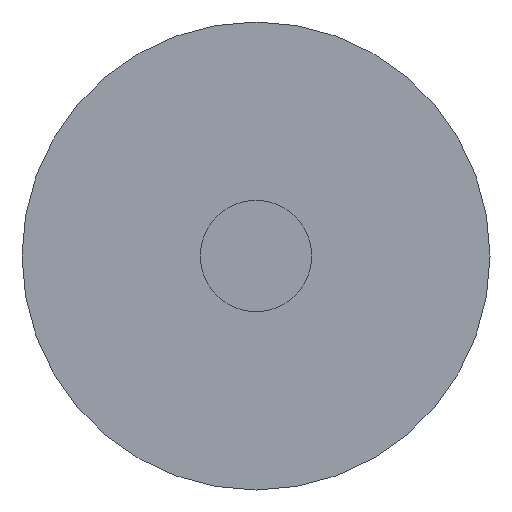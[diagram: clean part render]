
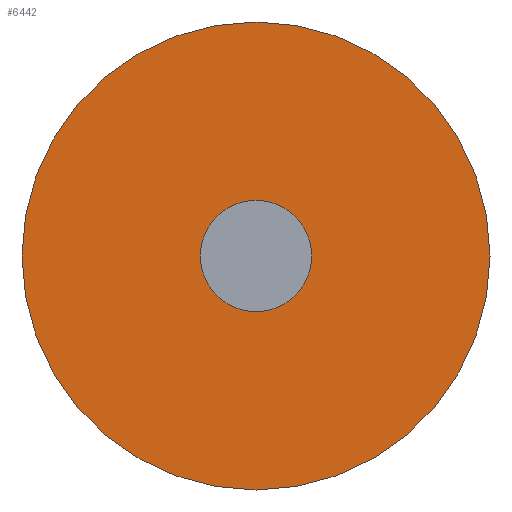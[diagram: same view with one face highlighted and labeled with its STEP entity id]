
A CAD part, front view. The second image highlights one B-rep face of the part: STEP entity #6442.
In plain terms, the highlighted planar face has unit normal (0, -1, 0).
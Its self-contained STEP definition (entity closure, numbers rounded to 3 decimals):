
#1792=PLANE('',#6603);
#1809=VERTEX_POINT('',#7402);
#2400=VERTEX_POINT('',#11043);
#2441=CIRCLE('',#6476,1.25);
#2455=CIRCLE('',#6602,5.25);
#2486=EDGE_CURVE('',#1809,#1809,#2441,.T.);
#3366=EDGE_CURVE('',#2400,#2400,#2455,.T.);
#5177=ORIENTED_EDGE('',*,*,#2486,.T.);
#5178=ORIENTED_EDGE('',*,*,#3366,.F.);
#5650=EDGE_LOOP('',(#5177));
#5651=EDGE_LOOP('',(#5178));
#6065=FACE_BOUND('',#5650,.T.);
#6066=FACE_BOUND('',#5651,.T.);
#6442=ADVANCED_FACE('',(#6065,#6066),#1792,.T.);
#6476=AXIS2_PLACEMENT_3D('',#7401,#6668,#6669);
#6602=AXIS2_PLACEMENT_3D('',#11042,#7270,#7271);
#6603=AXIS2_PLACEMENT_3D('',#11044,#7272,$);
#6668=DIRECTION('',(0.,1.,0.));
#6669=DIRECTION('',(0.,0.,1.25));
#7270=DIRECTION('',(0.,1.,0.));
#7271=DIRECTION('',(5.25,0.,0.));
#7272=DIRECTION('',(0.,-1.,0.));
#7401=CARTESIAN_POINT('',(0.,0.,0.));
#7402=CARTESIAN_POINT('',(0.,0.,1.25));
#11042=CARTESIAN_POINT('',(0.,0.,0.));
#11043=CARTESIAN_POINT('',(5.25,0.,0.));
#11044=CARTESIAN_POINT('',(4.975,0.,0.));
